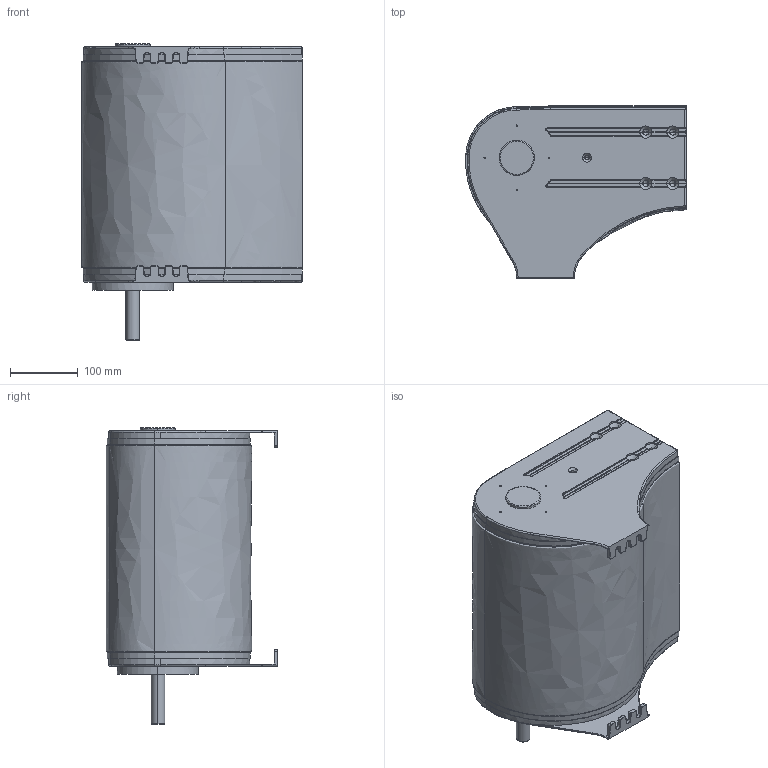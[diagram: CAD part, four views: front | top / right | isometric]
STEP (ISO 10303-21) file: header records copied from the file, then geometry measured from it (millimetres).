
FILE_DESCRIPTION (( 'STEP AP214' ), '1' );
FILE_NAME ('F2 1200 MDD20.step', '2017-04-05T06:47:27', ( '' ), ( '' ), 'SwSTEP 2.0', 'SolidWorks 2015', '' );
FILE_SCHEMA (( 'AUTOMOTIVE_DESIGN' ));
Length unit declared in the file: millimetre
Products named in the file (1): F2 1200 MDD20
Bounding box: 326.6 x 254.22 x 438.55 mm (x, y, z)
Volume: 20524093.7 mm3; surface area: 489109.6 mm2
Topology: 1 solids, 1 shells, 592 faces, 1508 edges, 903 vertices
Faces by surface type: cylinder 257, plane 156, torus 113, cone 42, bspline 24
Entity records: 20346 total; most frequent: CARTESIAN_POINT 5593, DIRECTION 3056, ORIENTED_EDGE 2968, EDGE_CURVE 1484, AXIS2_PLACEMENT_3D 1219, VERTEX_POINT 903, CIRCLE 650, LINE 618
